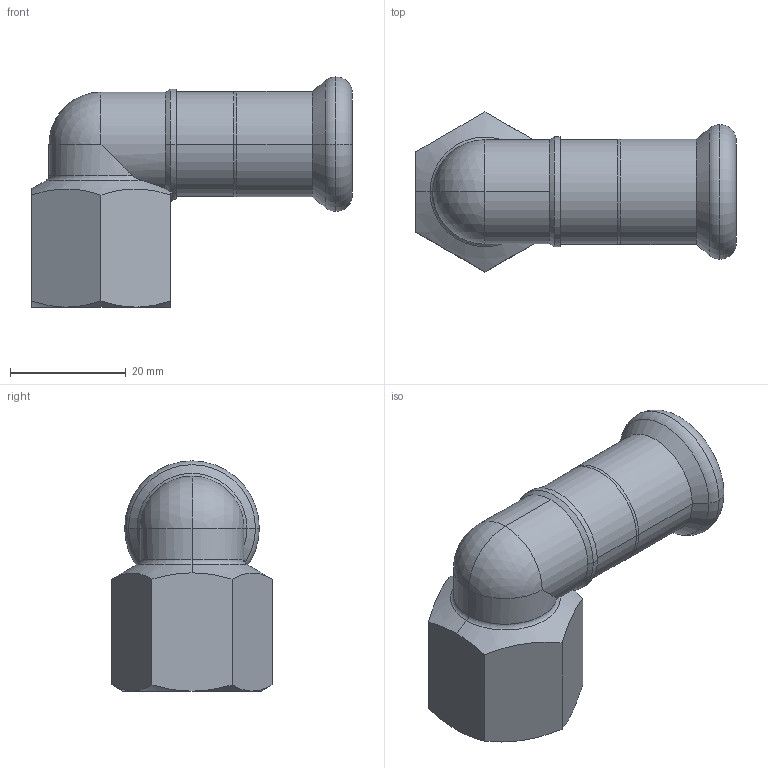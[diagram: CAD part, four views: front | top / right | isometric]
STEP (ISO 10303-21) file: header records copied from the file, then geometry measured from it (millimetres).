
FILE_DESCRIPTION(('OneSpaceDesigner STEP Export'),'2;1');
FILE_NAME('R2709 15xG1-2.stp','2010-06-09T14:43:12',(''),(''),'OneSpace Designer STEP processor for AP214 (Solid Model)','OneSpace Modeling 15.00A 14-Mar-2007 (C) CoCreate Software GmbH','');
FILE_SCHEMA(('AUTOMOTIVE_DESIGN { 1 0 10303 214 1 1 1 1 }'));
Length unit declared in the file: millimetre
Products named in the file (2): R2709_15xG1-2
Assembly tree (1 placements, depth 2):
  R2709_15xG1-2
    R2709_15xG1-2
Bounding box: 55.5 x 27.71 x 39.85 mm (x, y, z)
Volume: 10500.4 mm3; surface area: 9038.2 mm2
Topology: 1 solids, 1 shells, 97 faces, 242 edges, 150 vertices
Faces by surface type: plane 39, cylinder 30, cone 15, torus 9, sphere 4
Entity records: 3645 total; most frequent: CARTESIAN_POINT 1563, ORIENTED_EDGE 476, DIRECTION 344, EDGE_CURVE 238, VERTEX_POINT 150, AXIS2_PLACEMENT_3D 119, EDGE_LOOP 112, VECTOR 106
